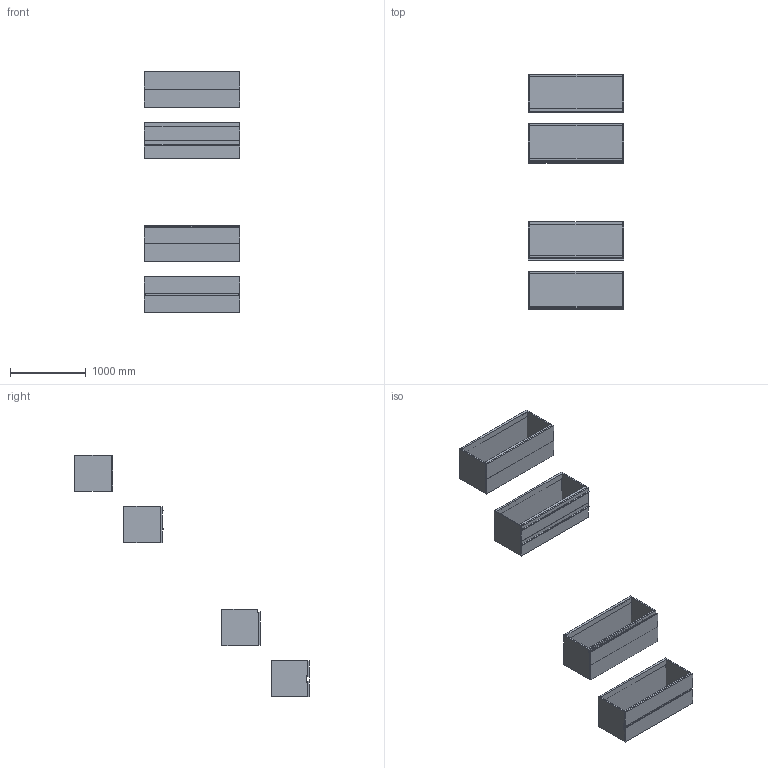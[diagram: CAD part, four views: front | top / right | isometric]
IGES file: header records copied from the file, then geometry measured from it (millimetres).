
Start section: Data from Parasolid IGES Translator 19.0.9, Copyright(c) 2006 Siemens PL M Software. All Rights Reserved.
Global section: file name: noorth-SI-H 48 D 51 W 126_8537.igs; native system: By Siemens PLM Incorporated; preprocessor: XPlus GENERIC/IGES 19.0.9; author: Noname; organization: Noname; date: 20200601.113746; units: metre
Bounding box: 1260 x 3107.1 x 3200.01 mm (x, y, z)
Volume: 132437359.7 mm3; surface area: 20665266.7 mm2
Topology: 37 solids, 37 shells, 342 faces, 748 edges, 460 vertices
Faces by surface type: plane 254, extrusion 36, bspline 32, cylinder 20
